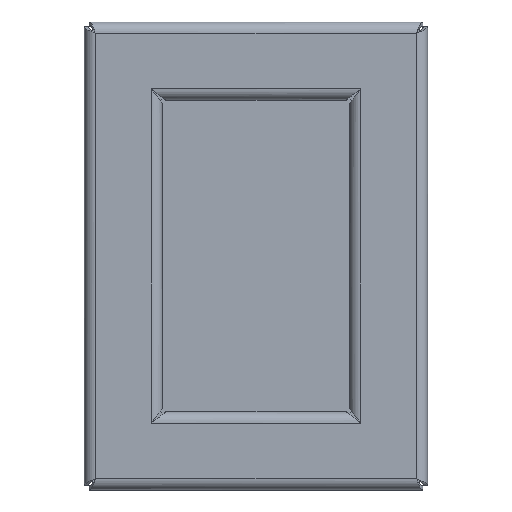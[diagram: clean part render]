
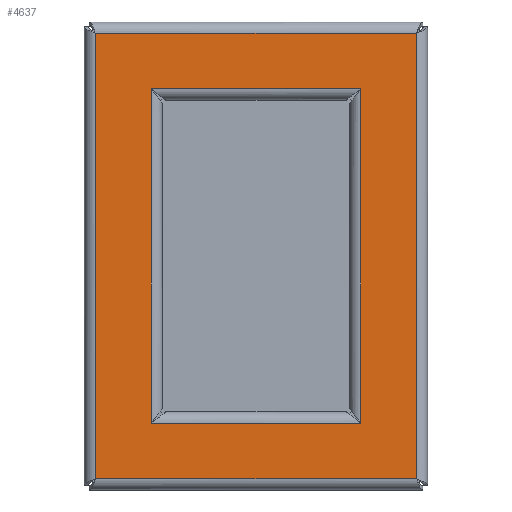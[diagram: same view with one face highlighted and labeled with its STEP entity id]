
A CAD part, top view. The second image highlights one B-rep face of the part: STEP entity #4637.
In plain terms, the highlighted planar face has unit normal (0, 0, 1).
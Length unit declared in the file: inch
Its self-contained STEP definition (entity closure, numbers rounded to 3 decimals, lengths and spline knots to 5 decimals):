
#395 = EDGE_CURVE ( 'NONE', #396, #4822, #1514, .T. ) ;
#396 = VERTEX_POINT ( 'NONE', #1510 ) ;
#1510 = CARTESIAN_POINT ( 'NONE',  ( -2.571, -3.571, 0.069 ) ) ;
#1511 = DIRECTION ( 'NONE',  ( 1., 0., 0. ) ) ;
#1512 = VECTOR ( 'NONE', #1511, 39.37008 ) ;
#1513 = CARTESIAN_POINT ( 'NONE',  ( -2.67393, -3.571, 0.069 ) ) ;
#1514 = LINE ( 'NONE', #1513, #1512 ) ;
#2155 = CARTESIAN_POINT ( 'NONE',  ( 2.571, 3.571, 0.069 ) ) ;
#2158 = DIRECTION ( 'NONE',  ( 0., 1., 0. ) ) ;
#2159 = VECTOR ( 'NONE', #2158, 39.37008 ) ;
#2160 = CARTESIAN_POINT ( 'NONE',  ( 2.571, -3.67393, 0.069 ) ) ;
#2161 = LINE ( 'NONE', #2160, #2159 ) ;
#2163 = DIRECTION ( 'NONE',  ( -1., 0., 0. ) ) ;
#2164 = VECTOR ( 'NONE', #2163, 39.37008 ) ;
#2165 = CARTESIAN_POINT ( 'NONE',  ( 26.5, 2.679, 0.069 ) ) ;
#2166 = LINE ( 'NONE', #2165, #2164 ) ;
#2167 = CARTESIAN_POINT ( 'NONE',  ( -1.679, -2.679, 0.069 ) ) ;
#2195 = CARTESIAN_POINT ( 'NONE',  ( 1.679, -27.5, 0.069 ) ) ;
#2196 = LINE ( 'NONE', #2195, #2264 ) ;
#2202 = DIRECTION ( 'NONE',  ( 0., -1., 0. ) ) ;
#2203 = VECTOR ( 'NONE', #2202, 39.37008 ) ;
#2204 = CARTESIAN_POINT ( 'NONE',  ( -2.571, 3.67393, 0.069 ) ) ;
#2205 = LINE ( 'NONE', #2204, #2203 ) ;
#2206 = DIRECTION ( 'NONE',  ( 0., -1., 0. ) ) ;
#2208 = VECTOR ( 'NONE', #2206, 39.37008 ) ;
#2210 = CARTESIAN_POINT ( 'NONE',  ( -1.679, 27.5, 0.069 ) ) ;
#2211 = LINE ( 'NONE', #2210, #2208 ) ;
#2213 = CARTESIAN_POINT ( 'NONE',  ( -1.679, 2.679, 0.069 ) ) ;
#2214 = CARTESIAN_POINT ( 'NONE',  ( 1.679, -2.679, 0.069 ) ) ;
#2218 = DIRECTION ( 'NONE',  ( -1., 0., 0. ) ) ;
#2219 = DIRECTION ( 'NONE',  ( 0., 0., -1. ) ) ;
#2220 = CARTESIAN_POINT ( 'NONE',  ( -2.75, 3.75, 0.069 ) ) ;
#2222 = AXIS2_PLACEMENT_3D ( 'NONE', #2220, #2219, #2218 ) ;
#2223 = PLANE ( 'NONE',  #2222 ) ;
#2224 = FACE_BOUND ( 'NONE', #4445, .T. ) ;
#2225 = FACE_OUTER_BOUND ( 'NONE', #4579, .T. ) ;
#2226 = DIRECTION ( 'NONE',  ( 1., 0., 0. ) ) ;
#2227 = VECTOR ( 'NONE', #2226, 39.37008 ) ;
#2228 = CARTESIAN_POINT ( 'NONE',  ( -26.5, -2.679, 0.069 ) ) ;
#2229 = LINE ( 'NONE', #2228, #2227 ) ;
#2243 = DIRECTION ( 'NONE',  ( -1., 0., 0. ) ) ;
#2244 = VECTOR ( 'NONE', #2243, 39.37008 ) ;
#2245 = CARTESIAN_POINT ( 'NONE',  ( 2.67393, 3.571, 0.069 ) ) ;
#2246 = LINE ( 'NONE', #2245, #2244 ) ;
#2253 = CARTESIAN_POINT ( 'NONE',  ( -2.571, 3.571, 0.069 ) ) ;
#2258 = CARTESIAN_POINT ( 'NONE',  ( 2.571, -3.571, 0.069 ) ) ;
#2263 = DIRECTION ( 'NONE',  ( 0., 1., 0. ) ) ;
#2264 = VECTOR ( 'NONE', #2263, 39.37008 ) ;
#2266 = CARTESIAN_POINT ( 'NONE',  ( 1.679, 2.679, 0.069 ) ) ;
#4218 = ORIENTED_EDGE ( 'NONE', *, *, #4716, .F. ) ;
#4227 = EDGE_CURVE ( 'NONE', #4822, #4564, #2161, .T. ) ;
#4273 = ORIENTED_EDGE ( 'NONE', *, *, #4227, .T. ) ;
#4294 = ORIENTED_EDGE ( 'NONE', *, *, #4748, .F. ) ;
#4445 = EDGE_LOOP ( 'NONE', ( #4218, #4611, #4294, #4590 ) ) ;
#4564 = VERTEX_POINT ( 'NONE', #2155 ) ;
#4579 = EDGE_LOOP ( 'NONE', ( #4719, #4273, #5296, #4653 ) ) ;
#4581 = VERTEX_POINT ( 'NONE', #2167 ) ;
#4590 = ORIENTED_EDGE ( 'NONE', *, *, #4628, .F. ) ;
#4608 = EDGE_CURVE ( 'NONE', #5685, #4711, #2166, .T. ) ;
#4611 = ORIENTED_EDGE ( 'NONE', *, *, #4608, .F. ) ;
#4628 = EDGE_CURVE ( 'NONE', #4581, #4707, #2229, .T. ) ;
#4637 = ADVANCED_FACE ( 'NONE', ( #2225, #2224 ), #2223, .F. ) ;
#4653 = ORIENTED_EDGE ( 'NONE', *, *, #4717, .T. ) ;
#4707 = VERTEX_POINT ( 'NONE', #2214 ) ;
#4711 = VERTEX_POINT ( 'NONE', #2213 ) ;
#4716 = EDGE_CURVE ( 'NONE', #4711, #4581, #2211, .T. ) ;
#4717 = EDGE_CURVE ( 'NONE', #5487, #396, #2205, .T. ) ;
#4719 = ORIENTED_EDGE ( 'NONE', *, *, #395, .T. ) ;
#4748 = EDGE_CURVE ( 'NONE', #4707, #5685, #2196, .T. ) ;
#4822 = VERTEX_POINT ( 'NONE', #2258 ) ;
#5296 = ORIENTED_EDGE ( 'NONE', *, *, #5541, .T. ) ;
#5487 = VERTEX_POINT ( 'NONE', #2253 ) ;
#5541 = EDGE_CURVE ( 'NONE', #4564, #5487, #2246, .T. ) ;
#5685 = VERTEX_POINT ( 'NONE', #2266 ) ;
